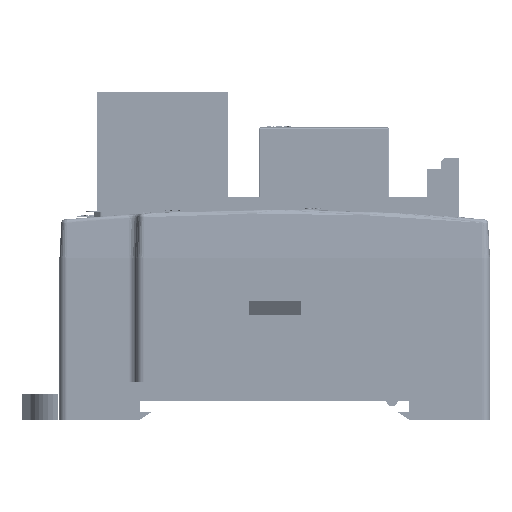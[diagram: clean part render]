
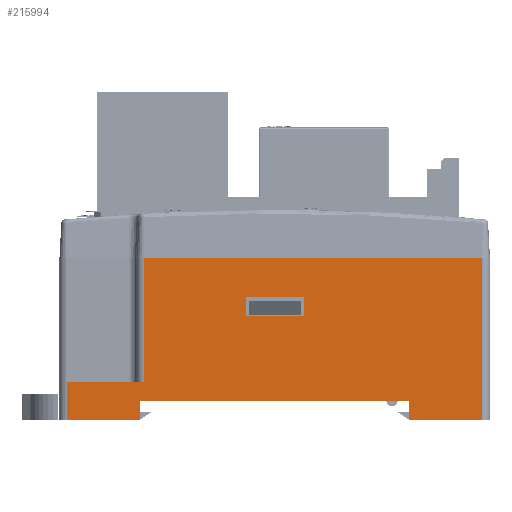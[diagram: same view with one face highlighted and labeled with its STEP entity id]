
A CAD part, front view. The second image highlights one B-rep face of the part: STEP entity #215994.
In plain terms, the highlighted planar face has unit normal (0, -1, 0).
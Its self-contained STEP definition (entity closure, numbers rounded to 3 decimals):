
#12800=DIRECTION('',(0.,0.,-1.));
#12801=VECTOR('',#12800,21.);
#12802=CARTESIAN_POINT('',(27.,-85.,0.));
#12803=LINE('',#12802,#12801);
#12860=DIRECTION('',(0.,0.,-1.));
#12861=VECTOR('',#12860,2.5);
#12862=CARTESIAN_POINT('',(17.5,-85.,-18.5));
#12863=LINE('',#12862,#12861);
#13455=DIRECTION('',(0.,0.,1.));
#13456=VECTOR('',#13455,16.1);
#13457=CARTESIAN_POINT('',(-17.,-85.,-16.1));
#13458=LINE('',#13457,#13456);
#13463=DIRECTION('',(1.,0.,0.));
#13464=VECTOR('',#13463,9.5);
#13465=CARTESIAN_POINT('',(17.5,-85.,-21.));
#13466=LINE('',#13465,#13464);
#13467=DIRECTION('',(1.,0.,0.));
#13468=VECTOR('',#13467,9.5);
#13469=CARTESIAN_POINT('',(-27.,-85.,-21.));
#13470=LINE('',#13469,#13468);
#13475=DIRECTION('',(0.,0.,1.));
#13476=VECTOR('',#13475,2.5);
#13477=CARTESIAN_POINT('',(-3.75,-85.,-7.5));
#13478=LINE('',#13477,#13476);
#13547=DIRECTION('',(1.,0.,0.));
#13548=VECTOR('',#13547,7.5);
#13549=CARTESIAN_POINT('',(-3.75,-85.,-5.));
#13550=LINE('',#13549,#13548);
#13696=DIRECTION('',(0.,0.,-1.));
#13697=VECTOR('',#13696,2.5);
#13698=CARTESIAN_POINT('',(3.75,-85.,-5.));
#13699=LINE('',#13698,#13697);
#13704=DIRECTION('',(-1.,0.,0.));
#13705=VECTOR('',#13704,7.5);
#13706=CARTESIAN_POINT('',(3.75,-85.,-7.5));
#13707=LINE('',#13706,#13705);
#13712=DIRECTION('',(-1.,0.,0.));
#13713=VECTOR('',#13712,35.);
#13714=CARTESIAN_POINT('',(17.5,-85.,-18.5));
#13715=LINE('',#13714,#13713);
#13720=DIRECTION('',(0.,0.,1.));
#13721=VECTOR('',#13720,2.5);
#13722=CARTESIAN_POINT('',(-17.5,-85.,-21.));
#13723=LINE('',#13722,#13721);
#84394=DIRECTION('',(1.,0.,0.));
#84395=VECTOR('',#84394,10.);
#84396=CARTESIAN_POINT('',(-27.,-85.,-16.1));
#84397=LINE('',#84396,#84395);
#84431=DIRECTION('',(0.,0.,1.));
#84432=VECTOR('',#84431,4.9);
#84433=CARTESIAN_POINT('',(-27.,-85.,-21.));
#84434=LINE('',#84433,#84432);
#84524=DIRECTION('',(1.,0.,0.));
#84525=VECTOR('',#84524,44.);
#84526=CARTESIAN_POINT('',(-17.,-85.,0.));
#84527=LINE('',#84526,#84525);
#191841=CARTESIAN_POINT('',(-17.5,-85.,-21.));
#191842=VERTEX_POINT('',#191841);
#191843=CARTESIAN_POINT('',(-27.,-85.,-21.));
#191844=VERTEX_POINT('',#191843);
#191871=CARTESIAN_POINT('',(27.,-85.,-21.));
#191872=VERTEX_POINT('',#191871);
#191873=CARTESIAN_POINT('',(17.5,-85.,-21.));
#191874=VERTEX_POINT('',#191873);
#191943=CARTESIAN_POINT('',(17.5,-85.,-18.5));
#191944=CARTESIAN_POINT('',(-17.5,-85.,-18.5));
#191945=VERTEX_POINT('',#191943);
#191946=VERTEX_POINT('',#191944);
#191947=CARTESIAN_POINT('',(-27.,-85.,-16.1));
#191948=VERTEX_POINT('',#191947);
#191949=CARTESIAN_POINT('',(-17.,-85.,-16.1));
#191950=VERTEX_POINT('',#191949);
#191951=CARTESIAN_POINT('',(-3.75,-85.,-7.5));
#191952=CARTESIAN_POINT('',(-3.75,-85.,-5.));
#191953=VERTEX_POINT('',#191951);
#191954=VERTEX_POINT('',#191952);
#191955=CARTESIAN_POINT('',(3.75,-85.,-7.5));
#191956=VERTEX_POINT('',#191955);
#191957=CARTESIAN_POINT('',(3.75,-85.,-5.));
#191958=VERTEX_POINT('',#191957);
#199166=CARTESIAN_POINT('',(-17.,-85.,0.));
#199167=CARTESIAN_POINT('',(27.,-85.,0.));
#199168=VERTEX_POINT('',#199166);
#199169=VERTEX_POINT('',#199167);
#215961=CARTESIAN_POINT('',(0.,-85.,-10.5));
#215962=DIRECTION('',(0.,1.,0.));
#215963=DIRECTION('',(1.,0.,0.));
#215964=AXIS2_PLACEMENT_3D('',#215961,#215962,#215963);
#215965=PLANE('',#215964);
#215966=ORIENTED_EDGE('',*,*,#214772,.T.);
#215967=ORIENTED_EDGE('',*,*,#214793,.F.);
#215968=ORIENTED_EDGE('',*,*,#214891,.F.);
#215970=ORIENTED_EDGE('',*,*,#215969,.T.);
#215972=ORIENTED_EDGE('',*,*,#215971,.F.);
#215974=ORIENTED_EDGE('',*,*,#215973,.F.);
#215976=ORIENTED_EDGE('',*,*,#215975,.T.);
#215978=ORIENTED_EDGE('',*,*,#215977,.T.);
#215979=ORIENTED_EDGE('',*,*,#215945,.T.);
#215981=ORIENTED_EDGE('',*,*,#215980,.T.);
#215982=EDGE_LOOP('',(#215966,#215967,#215968,#215970,#215972,#215974,#215976,
#215978,#215979,#215981));
#215983=FACE_OUTER_BOUND('',#215982,.F.);
#215985=ORIENTED_EDGE('',*,*,#215984,.F.);
#215987=ORIENTED_EDGE('',*,*,#215986,.F.);
#215989=ORIENTED_EDGE('',*,*,#215988,.F.);
#215991=ORIENTED_EDGE('',*,*,#215990,.F.);
#215992=EDGE_LOOP('',(#215985,#215987,#215989,#215991));
#215993=FACE_BOUND('',#215992,.F.);
#215994=ADVANCED_FACE('',(#215983,#215993),#215965,.F.);
#214772=EDGE_CURVE('',#199169,#191872,#12803,.T.);
#214793=EDGE_CURVE('',#191874,#191872,#13466,.T.);
#214891=EDGE_CURVE('',#191945,#191874,#12863,.T.);
#215945=EDGE_CURVE('',#191950,#199168,#13458,.T.);
#215969=EDGE_CURVE('',#191945,#191946,#13715,.T.);
#215971=EDGE_CURVE('',#191842,#191946,#13723,.T.);
#215973=EDGE_CURVE('',#191844,#191842,#13470,.T.);
#215975=EDGE_CURVE('',#191844,#191948,#84434,.T.);
#215977=EDGE_CURVE('',#191948,#191950,#84397,.T.);
#215980=EDGE_CURVE('',#199168,#199169,#84527,.T.);
#215984=EDGE_CURVE('',#191953,#191954,#13478,.T.);
#215986=EDGE_CURVE('',#191956,#191953,#13707,.T.);
#215988=EDGE_CURVE('',#191958,#191956,#13699,.T.);
#215990=EDGE_CURVE('',#191954,#191958,#13550,.T.);
